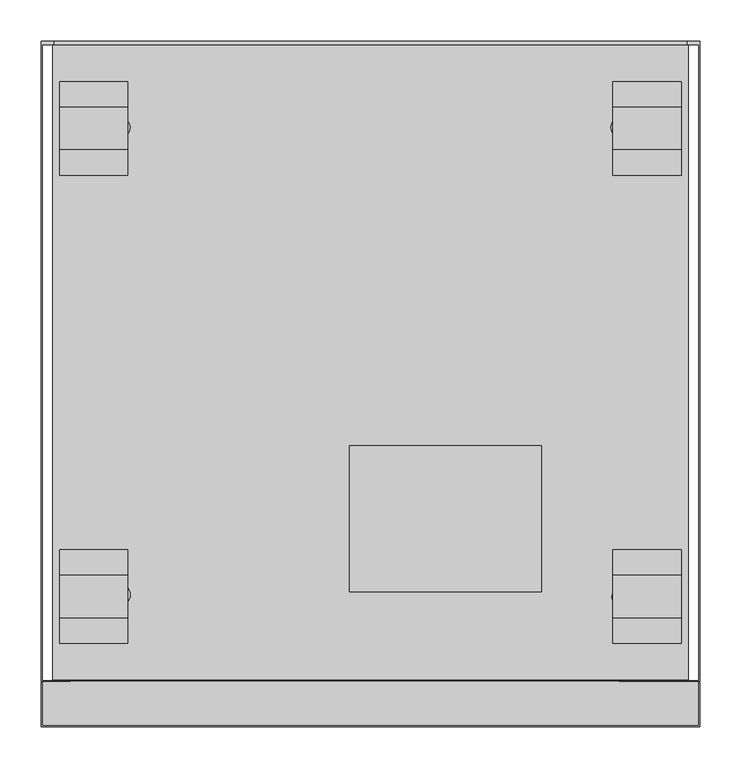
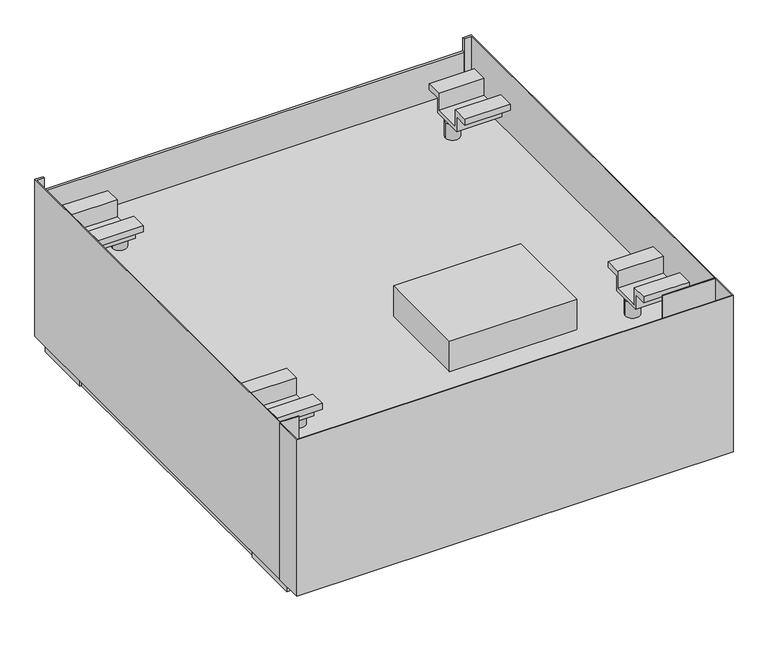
"""IFC4 building model written with IfcOpenShell, lengths in millimetres: proxy geometry, 11918120_EU_APWM040_SST : 59510040_EU_11918120_APWM040_SST."""

from ifc_helpers import new_model, si_unit, point, frame, frame_2d, origin, origin_with_axes, place, context, project, spatial, polyline, circle_curve, trimmed, segment, composite_curve, outline, extrude, faceted_brep, source, transform, mapped, element, save


def specialty_equipment_f6cd1360(model_context):
    return source(origin(), model_context, "Body", "SolidModel", [
        extrude(outline(composite_curve([segment(trimmed(circle_curve(frame_2d((303.524381, -103.9272996)), 13.0), [point((316.524381, -103.9272996))], [point((290.524381, -103.9272996))], False, "CARTESIAN"), True, "CONTINUOUS"), segment(trimmed(circle_curve(frame_2d((303.524381, -103.9272996)), 13.0), [point((290.524381, -103.9272996))], [point((316.524381, -103.9272996))], False, "CARTESIAN"), True, "CONTINUOUS")], self_intersect=False)), frame((0.0, 0.0, 237.0), z_axis=(0.0, 0.0, 1.0), x_axis=(1.0, 0.0, 0.0)), (0.0, 0.0, 1.0), 30.0),
        extrude(outline(composite_curve([segment(trimmed(circle_curve(frame_2d((-303.524381, -103.9272996)), 13.0), [point((-316.524381, -103.9272996))], [point((-290.524381, -103.9272996))], False, "CARTESIAN"), True, "CONTINUOUS"), segment(trimmed(circle_curve(frame_2d((-303.524381, -103.9272996)), 13.0), [point((-290.524381, -103.9272996))], [point((-316.524381, -103.9272996))], False, "CARTESIAN"), True, "CONTINUOUS")], self_intersect=False)), frame((0.0, 0.0, 237.0), z_axis=(0.0, 0.0, 1.0), x_axis=(1.0, 0.0, 0.0)), (0.0, 0.0, 1.0), 30.0),
        extrude(outline(composite_curve([segment(trimmed(circle_curve(frame_2d((-303.1384713, -667.9851183)), 13.0), [point((-316.1384713, -667.9851183))], [point((-290.1384713, -667.9851183))], False, "CARTESIAN"), True, "CONTINUOUS"), segment(trimmed(circle_curve(frame_2d((-303.1384713, -667.9851183)), 13.0), [point((-290.1384713, -667.9851183))], [point((-316.1384713, -667.9851183))], False, "CARTESIAN"), True, "CONTINUOUS")], self_intersect=False)), frame((0.0, 0.0, 237.0), z_axis=(0.0, 0.0, 1.0), x_axis=(1.0, 0.0, 0.0)), (0.0, 0.0, 1.0), 30.0),
        extrude(outline(polyline([(52.0145632, 378.6258063), (52.0145632, 372.3946043), (18.0, 372.3946043), (18.0, 327.5), (0.0, 327.5), (0.0, 378.6258063), (52.0145632, 378.6258063)])), frame((0.0, -677.0, 0.0), z_axis=(0.0, 1.0, 0.0), x_axis=(0.0, 0.0, 1.0)), (0.0, 0.0, 1.0), 577.0),
        extrude(outline(polyline([(-351.3252952, -44.8494788), (-351.3252952, -34.8038478), (-347.4919648, -34.8038478), (-345.6145404, -35.0993797), (-344.5059893, -36.0080482), (-344.1049979, -37.2931826), (-344.4422231, -38.4667262), (-345.4612562, -39.3557743), (-344.2239464, -40.2926472), (-343.7910719, -41.8549194), (-344.0866038, -43.2050463), (-344.818689, -44.1664446), (-345.9112985, -44.6765743), (-347.5213954, -44.8494788), (-351.3252952, -44.8494788)]), holes=[polyline([(-350.0695913, -38.8848854), (-347.7764602, -38.8848854), (-346.4373698, -38.7769733), (-345.6317082, -38.3122158), (-345.3607018, -37.4942914), (-345.6133141, -36.6751409), (-346.3368153, -36.1907629), (-347.950591, -36.0595517), (-350.0695913, -36.0595517), (-350.0695913, -38.8848854)]), polyline([(-350.0695913, -43.5937749), (-347.4944174, -43.5937749), (-346.5624496, -43.544724), (-345.7739559, -43.271265), (-345.0467758, -41.8671821), (-345.2871254, -40.8910685), (-346.0658089, -40.3085887), (-347.6170447, -40.1405893), (-350.0695913, -40.1405893), (-350.0695913, -43.5937749)])]), frame((0.0, 0.0, -1.0), z_axis=(0.0, 0.0, 1.0), x_axis=(1.0, 0.0, 0.0)), (0.0, 0.0, 1.0), 1.0),
        extrude(outline(polyline([(344.2619609, -44.8494788), (344.2619609, -34.8038478), (348.0952913, -34.8038478), (349.9727157, -35.0993797), (351.0812668, -36.0080482), (351.4822582, -37.2931826), (351.145033, -38.4667262), (350.1259999, -39.3557743), (351.3633097, -40.2926472), (351.7961842, -41.8549194), (351.5006523, -43.2050463), (350.7685671, -44.1664446), (349.6759576, -44.6765743), (348.0658607, -44.8494788), (344.2619609, -44.8494788)]), holes=[polyline([(345.5176648, -38.8848854), (347.8107959, -38.8848854), (349.1498863, -38.7769733), (349.9555479, -38.3122158), (350.2265543, -37.4942914), (349.973942, -36.6751409), (349.2504407, -36.1907629), (347.6366651, -36.0595517), (345.5176648, -36.0595517), (345.5176648, -38.8848854)]), polyline([(345.5176648, -43.5937749), (348.0928387, -43.5937749), (349.0248065, -43.544724), (349.8133002, -43.271265), (350.5404803, -41.8671821), (350.3001307, -40.8910685), (349.5214472, -40.3085887), (347.9702114, -40.1405893), (345.5176648, -40.1405893), (345.5176648, -43.5937749)])]), frame((0.0, 0.0, -1.0), z_axis=(0.0, 0.0, 1.0), x_axis=(1.0, 0.0, 0.0)), (0.0, 0.0, 1.0), 1.0),
        extrude(outline(polyline([(343.9654795, -739.8497846), (343.9654795, -729.8041536), (347.7988098, -729.8041536), (349.6762343, -730.0996855), (350.7847854, -731.008354), (351.1857767, -732.2934884), (350.8485516, -733.467032), (349.8295185, -734.3560802), (351.0668282, -735.292953), (351.4997027, -736.8552252), (351.2041708, -738.2053521), (350.4720857, -739.1667504), (349.3794762, -739.6768801), (347.7693793, -739.8497846), (343.9654795, -739.8497846)]), holes=[polyline([(345.2211833, -733.8851912), (347.5143144, -733.8851912), (348.8534049, -733.7772791), (349.6590665, -733.3125216), (349.9300729, -732.4945973), (349.6774606, -731.6754467), (348.9539593, -731.1910687), (347.3401836, -731.0598575), (345.2211833, -731.0598575), (345.2211833, -733.8851912)]), polyline([(345.2211833, -738.5940807), (347.7963573, -738.5940807), (348.728325, -738.5450298), (349.5168188, -738.2715709), (350.2439988, -736.8674879), (350.0036493, -735.8913743), (349.2249657, -735.3088945), (347.67373, -735.1408951), (345.2211833, -735.1408951), (345.2211833, -738.5940807)])]), frame((0.0, 0.0, -1.0), z_axis=(0.0, 0.0, 1.0), x_axis=(1.0, 0.0, 0.0)), (0.0, 0.0, 1.0), 1.0),
        extrude(outline(polyline([(-351.0288138, -739.8497846), (-351.0288138, -729.8041536), (-347.1954834, -729.8041536), (-345.3180589, -730.0996855), (-344.2095078, -731.008354), (-343.8085165, -732.2934884), (-344.1457416, -733.467032), (-345.1647748, -734.3560802), (-343.927465, -735.292953), (-343.4945905, -736.8552252), (-343.7901224, -738.2053521), (-344.5222075, -739.1667504), (-345.6148171, -739.6768801), (-347.2249139, -739.8497846), (-351.0288138, -739.8497846)]), holes=[polyline([(-349.7731099, -733.8851912), (-347.4799788, -733.8851912), (-346.1408883, -733.7772791), (-345.3352268, -733.3125216), (-345.0642203, -732.4945973), (-345.3168327, -731.6754467), (-346.0403339, -731.1910687), (-347.6541096, -731.0598575), (-349.7731099, -731.0598575), (-349.7731099, -733.8851912)]), polyline([(-349.7731099, -738.5940807), (-347.1979359, -738.5940807), (-346.2659682, -738.5450298), (-345.4774745, -738.2715709), (-344.7502944, -736.8674879), (-344.9906439, -735.8913743), (-345.7693275, -735.3088945), (-347.3205633, -735.1408951), (-349.7731099, -735.1408951), (-349.7731099, -738.5940807)])]), frame((0.0, 0.0, -1.0), z_axis=(0.0, 0.0, 1.0), x_axis=(1.0, 0.0, 0.0)), (0.0, 0.0, 1.0), 1.0),
        extrude(outline(polyline([(378.5, -677.0), (378.5, -763.0), (287.5, -763.0), (287.5, -715.3861084), (326.4999568, -715.3861084), (326.4999568, -677.0), (378.5, -677.0)]), holes=[composite_curve([segment(trimmed(circle_curve(frame_2d((347.793628, -735.150216)), 8.0562321), [point((355.8498601, -735.150216))], [point((339.737396, -735.150216))], True, "CARTESIAN"), True, "CONTINUOUS"), segment(trimmed(circle_curve(frame_2d((347.793628, -735.150216)), 8.0562321), [point((339.737396, -735.150216))], [point((355.8498601, -735.150216))], True, "CARTESIAN"), True, "CONTINUOUS")], self_intersect=False)]), origin_with_axes(), (0.0, 0.0, 1.0), 11.5903958),
        extrude(outline(polyline([(-378.5, -677.0), (-326.5000432, -677.0), (-326.5000432, -715.3861084), (-287.5, -715.3861084), (-287.5, -763.0), (-378.5, -763.0), (-378.5, -677.0)]), holes=[composite_curve([segment(trimmed(circle_curve(frame_2d((-347.793628, -735.150216)), 8.0562321), [point((-339.737396, -735.150216))], [point((-355.8498601, -735.150216))], True, "CARTESIAN"), True, "CONTINUOUS"), segment(trimmed(circle_curve(frame_2d((-347.793628, -735.150216)), 8.0562321), [point((-355.8498601, -735.150216))], [point((-339.737396, -735.150216))], True, "CARTESIAN"), True, "CONTINUOUS")], self_intersect=False)]), origin_with_axes(), (0.0, 0.0, 1.0), 11.5903958),
        extrude(outline(polyline([(-378.5, -100.0), (-378.5, -9.5), (-287.5, -9.5), (-287.5, -58.3861084), (-328.0000737, -58.3861084), (-328.0000737, -100.0), (-378.5, -100.0)]), holes=[composite_curve([segment(trimmed(circle_curve(frame_2d((-347.793628, -39.8494788)), 8.0562321), [point((-355.8498601, -39.8494788))], [point((-339.737396, -39.8494788))], True, "CARTESIAN"), True, "CONTINUOUS"), segment(trimmed(circle_curve(frame_2d((-347.793628, -39.8494788)), 8.0562321), [point((-339.737396, -39.8494788))], [point((-355.8498601, -39.8494788))], True, "CARTESIAN"), True, "CONTINUOUS")], self_intersect=False)]), origin_with_axes(), (0.0, 0.0, 1.0), 11.5903958),
        extrude(outline(polyline([(378.5, -100.0), (327.9999263, -100.0), (327.9999263, -58.3861084), (287.5, -58.3861084), (287.5, -9.5), (378.5, -9.5), (378.5, -100.0)]), holes=[composite_curve([segment(trimmed(circle_curve(frame_2d((347.793628, -39.8494788)), 8.0562321), [point((339.737396, -39.8494788))], [point((355.8498601, -39.8494788))], True, "CARTESIAN"), True, "CONTINUOUS"), segment(trimmed(circle_curve(frame_2d((347.793628, -39.8494788)), 8.0562321), [point((355.8498601, -39.8494788))], [point((339.737396, -39.8494788))], True, "CARTESIAN"), True, "CONTINUOUS")], self_intersect=False)]), origin_with_axes(), (0.0, 0.0, 1.0), 11.5903958),
        extrude(outline(polyline([(396.5, -772.0), (396.5, -826.0), (-396.5, -826.0), (-396.5, -772.0), (396.5, -772.0)])), frame((0.0, 0.0, 33.0002937), z_axis=(0.0, 0.0, 1.0), x_axis=(1.0, 0.0, 0.0)), (0.0, 0.0, 1.0), 2.0),
        extrude(outline(polyline([(-726.2654995, 307.0), (-696.2654995, 307.0), (-696.2654995, 274.0), (-643.9995117, 274.0), (-643.9995117, 307.0), (-613.733047, 307.0), (-613.733047, 295.6000392), (-639.9998779, 295.6000392), (-639.9998779, 267.0), (-699.9998779, 267.0), (-699.9998779, 295.6000392), (-726.2654995, 295.6000392), (-726.2654995, 307.0)])), frame((292.9998601, 0.0, 0.0), z_axis=(1.0, 0.0, 0.0), x_axis=(0.0, 1.0, 0.0)), (0.0, 0.0, 1.0), 82.5001399),
        extrude(outline(polyline([(-726.2654995, 307.0), (-696.2654995, 307.0), (-696.2654995, 274.0), (-643.9995117, 274.0), (-643.9995117, 307.0), (-613.733047, 307.0), (-613.733047, 295.6000392), (-639.9998779, 295.6000392), (-639.9998779, 267.0), (-699.9998779, 267.0), (-699.9998779, 295.6000392), (-726.2654995, 295.6000392), (-726.2654995, 307.0)])), frame((-375.5, 0.0, 0.0), z_axis=(1.0, 0.0, 0.0), x_axis=(0.0, 1.0, 0.0)), (0.0, 0.0, 1.0), 82.5001399),
        extrude(outline(polyline([(-48.7341953, 306.5002739), (-48.7341953, 295.6000392), (-74.9998169, 295.6000392), (-74.9998169, 267.0), (-134.9998169, 267.0), (-134.9998169, 295.6000392), (-161.2666478, 295.6000392), (-161.2666478, 306.5002739), (-131.0001831, 306.5002739), (-131.0001831, 274.0), (-78.7341953, 274.0), (-78.7341953, 306.5002739), (-48.7341953, 306.5002739)])), frame((-375.5, 0.0, 0.0), z_axis=(1.0, 0.0, 0.0), x_axis=(0.0, 1.0, 0.0)), (0.0, 0.0, 1.0), 82.5001399),
        extrude(outline(polyline([(-48.7341953, 307.0), (-48.7341953, 295.6000392), (-74.9998169, 295.6000392), (-74.9998169, 267.0), (-134.9998169, 267.0), (-134.9998169, 295.6000392), (-161.2666478, 295.6000392), (-161.2666478, 307.0), (-131.0001831, 307.0), (-131.0001831, 274.0), (-78.7341953, 274.0), (-78.7341953, 307.0), (-48.7341953, 307.0)])), frame((292.9998601, 0.0, 0.0), z_axis=(1.0, 0.0, 0.0), x_axis=(0.0, 1.0, 0.0)), (0.0, 0.0, 1.0), 82.5001399),
        extrude(outline(composite_curve([segment(trimmed(circle_curve(frame_2d((304.5747807, -670.5277164)), 13.0), [point((317.5747807, -670.5277164))], [point((291.5747807, -670.5277164))], False, "CARTESIAN"), True, "CONTINUOUS"), segment(trimmed(circle_curve(frame_2d((304.5747807, -670.5277164)), 13.0), [point((291.5747807, -670.5277164))], [point((317.5747807, -670.5277164))], False, "CARTESIAN"), True, "CONTINUOUS")], self_intersect=False)), frame((0.0, 0.0, 237.0), z_axis=(0.0, 0.0, 1.0), x_axis=(1.0, 0.0, 0.0)), (0.0, 0.0, 1.0), 30.0),
        extrude(outline(polyline([(206.3226917, -488.0020447), (206.3226917, -664.2498169), (-25.4861432, -664.2498169), (-25.4861432, -488.0020447), (206.3226917, -488.0020447)])), frame((0.0, 0.0, 237.0), z_axis=(0.0, 0.0, 1.0), x_axis=(1.0, 0.0, 0.0)), (0.0, 0.0, 1.0), 58.6000392),
        extrude(outline(polyline([(-760.5000153, 52.0), (-760.5000153, 18.0), (-712.5000153, 18.0), (-712.5000153, 0.0), (-763.0, 0.0), (-763.0, 52.0), (-760.5000153, 52.0)])), frame((-287.5, 0.0, 0.0), z_axis=(1.0, 0.0, 0.0), x_axis=(0.0, 1.0, 0.0)), (0.0, 0.0, 1.0), 575.0),
        extrude(outline(polyline([(-12.0, 52.0), (-9.5000153, 52.0), (-9.5000153, 0.0), (-60.0, 0.0), (-60.0, 18.0), (-12.0, 18.0), (-12.0, 52.0)])), frame((-287.5, 0.0, 0.0), z_axis=(1.0, 0.0, 0.0), x_axis=(0.0, 1.0, 0.0)), (0.0, 0.0, 1.0), 575.0),
        extrude(outline(polyline([(52.0145632, -378.6258063), (0.0, -378.6258063), (0.0, -327.5), (18.0, -327.5), (18.0, -372.3946043), (52.0145632, -372.3946043), (52.0145632, -378.6258063)])), frame((0.0, -677.0, 0.0), z_axis=(0.0, 1.0, 0.0), x_axis=(0.0, 0.0, 1.0)), (0.0, 0.0, 1.0), 577.0),
        extrude(outline(polyline([(381.5, -767.5000153), (274.6649124, -767.5000153), (274.6649124, -763.0), (378.5, -763.0), (378.5, -657.9607935), (381.5, -657.9607935), (381.5, -767.5000153)])), origin_with_axes(), (0.0, 0.0, 1.0), 232.0),
        extrude(outline(polyline([(-381.5, -767.5000153), (-381.5, -657.9607935), (-378.7128543, -657.9607935), (-378.7128543, -763.0), (-274.6649124, -763.0), (-274.6649124, -767.5000153), (-381.5, -767.5000153)])), origin_with_axes(), (0.0, 0.0, 1.0), 232.0),
        extrude(outline(polyline([(381.5, -5.0), (381.5, -114.5392218), (378.5, -114.5392218), (378.5, -9.5000153), (274.6649124, -9.5000153), (274.6649124, -5.0), (381.5, -5.0)])), origin_with_axes(), (0.0, 0.0, 1.0), 232.0),
        extrude(outline(polyline([(-381.5, -5.0), (-274.6649124, -5.0), (-274.6649124, -9.5000153), (-378.7128543, -9.5000153), (-378.7128543, -114.5392218), (-381.5, -114.5392218), (-381.5, -5.0)])), origin_with_axes(), (0.0, 0.0, 1.0), 232.0),
        faceted_brep([(384.0, -4.0, 237.0), (-384.0, -4.0, 237.0), (-384.0, -770.5000153, 237.0), (384.0, -770.5000153, 237.0), (384.0, -4.0, 189.9245813), (384.0, -770.5000153, 189.9245813), (-384.0, -770.5000153, 189.9245813), (-384.0, -4.0, 189.9245813), (381.5, -5.0, 189.9245813), (-381.5, -5.0, 189.9245813), (-381.5, -767.5000153, 189.9245813), (381.5, -767.5000153, 189.9245813), (381.5, -5.0, 232.0), (381.5, -767.5000153, 232.0), (-381.5, -767.5000153, 232.0), (-381.5, -5.0, 232.0)], [[[0, 1, 2, 3]], [[4, 5, 6, 7], [8, 9, 10, 11]], [[1, 0, 4, 7]], [[2, 1, 7, 6]], [[3, 2, 6, 5]], [[0, 3, 5, 4]], [[12, 13, 14, 15]], [[12, 15, 9, 8]], [[15, 14, 10, 9]], [[14, 13, 11, 10]], [[13, 12, 8, 11]]]),
        extrude(outline(polyline([(382.5, -3.7341953), (-382.5, -3.7341953), (-382.5, 0.0), (382.5, 0.0), (382.5, -3.7341953)])), frame((0.0, 0.0, 190.0), z_axis=(0.0, 0.0, 1.0), x_axis=(1.0, 0.0, 0.0)), (0.0, 0.0, 1.0), 119.4502983),
        extrude(outline(polyline([(-397.5, -773.5000153), (-396.5, -773.5000153), (-396.5, -826.0), (396.5, -826.0), (396.5, -773.5000153), (397.5, -773.5000153), (397.5, -827.0), (-397.5, -827.0), (-397.5, -773.5000153)])), frame((0.0, 0.0, 33.0002937), z_axis=(0.0, 0.0, 1.0), x_axis=(1.0, 0.0, 0.0)), (0.0, 0.0, 1.0), 301.9997063),
        extrude(outline(polyline([(-397.5, 0.0), (-382.5, 0.0), (-382.5, -3.7341953), (-396.5, -3.7341953), (-396.5, -771.5000153), (-362.5000737, -771.5000153), (-362.5000737, -772.5000153), (-397.5, -772.5000153), (-397.5, 0.0)])), frame((0.0, 0.0, 33.0002937), z_axis=(0.0, 0.0, 1.0), x_axis=(1.0, 0.0, 0.0)), (0.0, 0.0, 1.0), 301.9997063),
        extrude(outline(polyline([(397.5, -772.5000153), (299.9999263, -772.5000153), (299.9999263, -771.5000153), (396.5, -771.5000153), (396.5, -3.7341953), (382.5, -3.7341953), (382.5, 0.0), (397.5, 0.0), (397.5, -772.5000153)])), frame((0.0, 0.0, 33.0002937), z_axis=(0.0, 0.0, 1.0), x_axis=(1.0, 0.0, 0.0)), (0.0, 0.0, 1.0), 301.9997063),
    ])


if __name__ == "__main__":
    model = new_model("IFC4")
    model_context = context("Model", 3, world=origin())
    ifc_project = project(units=[si_unit("LENGTHUNIT", "METRE", prefix="MILLI")], contexts=[model_context])
    site = spatial("IfcSite", under=ifc_project)
    building = spatial("IfcBuilding", under=site)
    placement = place(None, origin())
    specialty_equipment_shape = specialty_equipment_f6cd1360(model_context)
    element("IfcBuildingElementProxy", 1, Name="11918120_EU_APWM040_SST : 59510040_EU_11918120_APWM040_SST", ObjectType="11918120_EU_APWM040_SST : 59510040_EU_11918120_APWM040_SST", at=placement, inside=building, context=model_context, shape_type="MappedRepresentation", body=[
        mapped(specialty_equipment_shape, transform((0.0, 0.0, 0.0), x_axis=(1.0, 0.0, 0.0), y_axis=(0.0, 1.0, 0.0), z_axis=(0.0, 0.0, 1.0))),
    ])
    save(model, "model.ifc")
